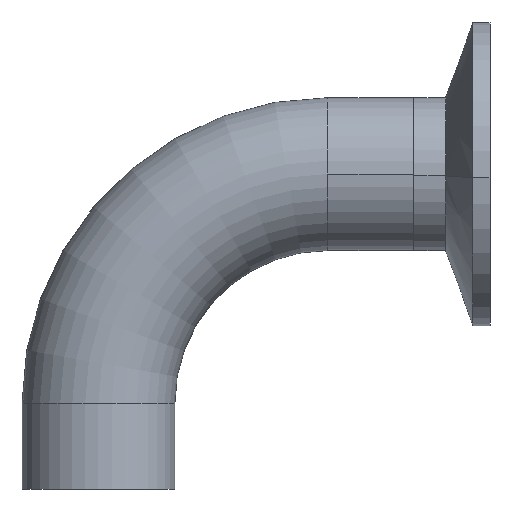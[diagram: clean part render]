
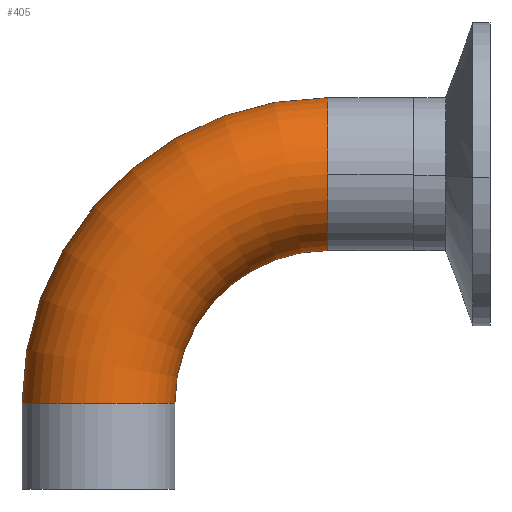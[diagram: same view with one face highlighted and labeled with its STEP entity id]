
A CAD part, top view. The second image highlights one B-rep face of the part: STEP entity #405.
In plain terms, the highlighted toroidal (fillet/blend) face has major radius 38.1 mm and minor radius 12.7 mm.
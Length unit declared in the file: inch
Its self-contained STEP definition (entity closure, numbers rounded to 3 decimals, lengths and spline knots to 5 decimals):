
#16 = FACE_OUTER_BOUND ( 'NONE', #455, .T. ) ;
#70 = DIRECTION ( 'NONE',  ( -1., 0., 0. ) ) ;
#94 = CARTESIAN_POINT ( 'NONE',  ( 1.21766, 0.90146, 1.21878 ) ) ;
#100 = DIRECTION ( 'NONE',  ( 0., -1., 0. ) ) ;
#120 = CARTESIAN_POINT ( 'NONE',  ( 1.21766, 1.40146, 1.21878 ) ) ;
#147 = DIRECTION ( 'NONE',  ( 0., 0., -1. ) ) ;
#176 = TOROIDAL_SURFACE ( 'NONE', #909, 1.5, 0.5 ) ;
#191 = CIRCLE ( 'NONE', #625, 0.5 ) ;
#200 = DIRECTION ( 'NONE',  ( 0., -1., 0. ) ) ;
#213 = VERTEX_POINT ( 'NONE', #676 ) ;
#223 = CARTESIAN_POINT ( 'NONE',  ( 1.21766, -0.09854, 1.21878 ) ) ;
#227 = ORIENTED_EDGE ( 'NONE', *, *, #395, .F. ) ;
#300 = DIRECTION ( 'NONE',  ( -1., 0., 0. ) ) ;
#304 = DIRECTION ( 'NONE',  ( -1., 0., 0. ) ) ;
#311 = CIRCLE ( 'NONE', #695, 0.5 ) ;
#344 = CARTESIAN_POINT ( 'NONE',  ( 1.21766, 1.40146, 1.21878 ) ) ;
#364 = ORIENTED_EDGE ( 'NONE', *, *, #449, .T. ) ;
#367 = CARTESIAN_POINT ( 'NONE',  ( -0.78234, -0.09854, 1.21878 ) ) ;
#374 = CARTESIAN_POINT ( 'NONE',  ( 1.21766, -0.09854, 1.21878 ) ) ;
#395 = EDGE_CURVE ( 'NONE', #593, #793, #602, .T. ) ;
#405 = ADVANCED_FACE ( 'NONE', ( #16 ), #176, .T. ) ;
#409 = EDGE_CURVE ( 'NONE', #213, #930, #761, .T. ) ;
#425 = DIRECTION ( 'NONE',  ( 0., -1., 0. ) ) ;
#449 = EDGE_CURVE ( 'NONE', #698, #793, #737, .T. ) ;
#452 = AXIS2_PLACEMENT_3D ( 'NONE', #938, #550, #70 ) ;
#455 = EDGE_LOOP ( 'NONE', ( #227, #525, #918, #886, #364 ) ) ;
#460 = CARTESIAN_POINT ( 'NONE',  ( 1.21766, 1.40146, 1.71878 ) ) ;
#470 = EDGE_CURVE ( 'NONE', #213, #593, #311, .T. ) ;
#525 = ORIENTED_EDGE ( 'NONE', *, *, #470, .F. ) ;
#550 = DIRECTION ( 'NONE',  ( 0., 0., -1. ) ) ;
#551 = CARTESIAN_POINT ( 'NONE',  ( 1.21766, 1.90146, 1.21878 ) ) ;
#558 = EDGE_CURVE ( 'NONE', #930, #698, #191, .T. ) ;
#580 = CARTESIAN_POINT ( 'NONE',  ( -0.28234, -0.09854, 1.21878 ) ) ;
#593 = VERTEX_POINT ( 'NONE', #367 ) ;
#602 = CIRCLE ( 'NONE', #452, 2. ) ;
#625 = AXIS2_PLACEMENT_3D ( 'NONE', #344, #848, #425 ) ;
#645 = DIRECTION ( 'NONE',  ( 1., 0., 0. ) ) ;
#668 = DIRECTION ( 'NONE',  ( -1., 0., 0. ) ) ;
#676 = CARTESIAN_POINT ( 'NONE',  ( 0.21766, -0.09854, 1.21878 ) ) ;
#695 = AXIS2_PLACEMENT_3D ( 'NONE', #580, #100, #645 ) ;
#698 = VERTEX_POINT ( 'NONE', #460 ) ;
#737 = CIRCLE ( 'NONE', #773, 0.5 ) ;
#760 = DIRECTION ( 'NONE',  ( 0., 0., -1. ) ) ;
#761 = CIRCLE ( 'NONE', #831, 1. ) ;
#773 = AXIS2_PLACEMENT_3D ( 'NONE', #120, #668, #200 ) ;
#793 = VERTEX_POINT ( 'NONE', #551 ) ;
#831 = AXIS2_PLACEMENT_3D ( 'NONE', #223, #760, #304 ) ;
#848 = DIRECTION ( 'NONE',  ( -1., 0., 0. ) ) ;
#886 = ORIENTED_EDGE ( 'NONE', *, *, #558, .T. ) ;
#909 = AXIS2_PLACEMENT_3D ( 'NONE', #374, #147, #300 ) ;
#918 = ORIENTED_EDGE ( 'NONE', *, *, #409, .T. ) ;
#930 = VERTEX_POINT ( 'NONE', #94 ) ;
#938 = CARTESIAN_POINT ( 'NONE',  ( 1.21766, -0.09854, 1.21878 ) ) ;
